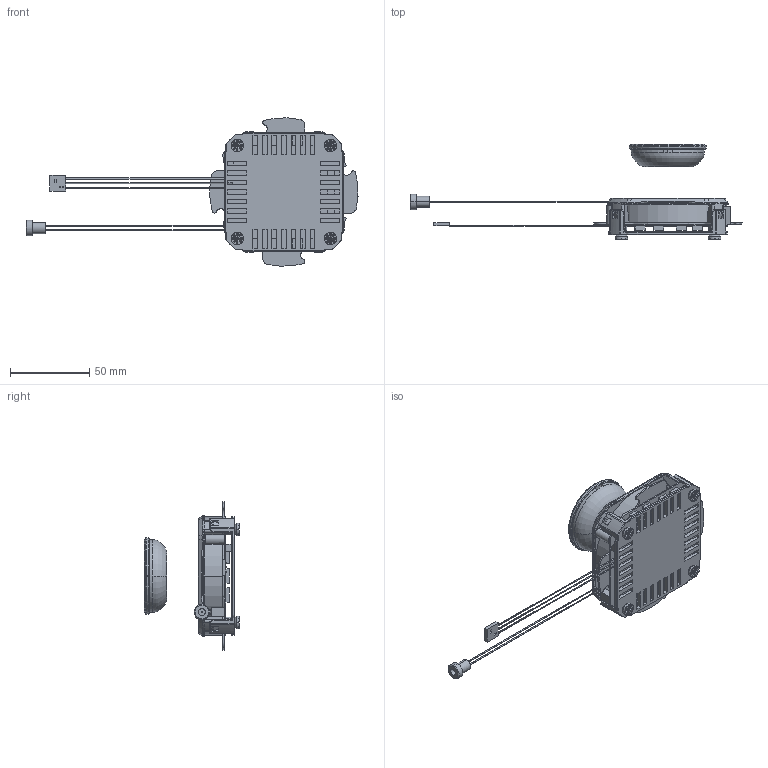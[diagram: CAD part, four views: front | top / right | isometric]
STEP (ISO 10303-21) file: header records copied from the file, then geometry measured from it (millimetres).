
FILE_DESCRIPTION((''),'2;1');
FILE_NAME('ASM0001_ASM','2024-10-15T09:59:48',('qinghui.yi'),(''),'CREO PARAMETRIC BY PTC INC, 2019164','CREO PARAMETRIC BY PTC INC, 2019164','');
FILE_SCHEMA(('CONFIG_CONTROL_DESIGN','SHAPE_APPEARANCE_LAYERS_GROUPS'));
Length unit declared in the file: millimetre
Products named in the file (9): 0001; 0002; 0003; 0004; 00; 0006; _A; ASM0001_ASM
Assembly tree (11 placements, depth 2):
  ASM0001_ASM
    0001
    0002
    0003
    0004
    00  x4
    0006
    _A
    00
Bounding box: 209.27 x 60 x 93.44 mm (x, y, z)
Volume: 90157.7 mm3; surface area: 67071.8 mm2
Topology: 22 solids, 22 shells, 1393 faces, 3520 edges, 2200 vertices
Faces by surface type: plane 616, cylinder 387, cone 152, torus 114, bspline 84, extrusion 32, revolution 6, sphere 2
Entity records: 47995 total; most frequent: CARTESIAN_POINT 15118, ORIENTED_EDGE 6520, DIRECTION 6282, EDGE_CURVE 3260, AXIS2_PLACEMENT_3D 2321, VERTEX_POINT 2041, VECTOR 1634, LINE 1602
